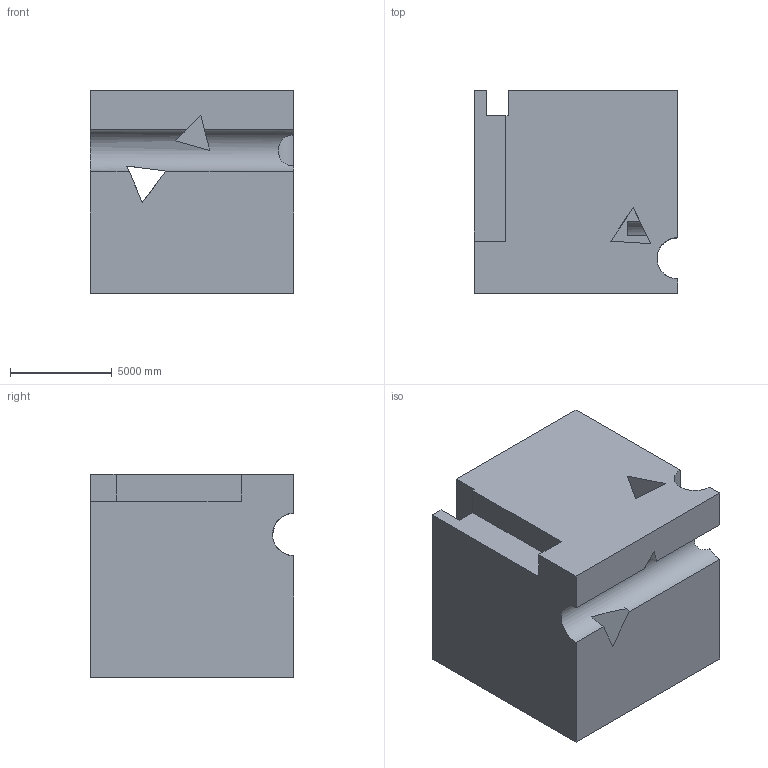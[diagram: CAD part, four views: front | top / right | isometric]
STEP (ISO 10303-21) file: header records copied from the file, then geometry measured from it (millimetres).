
FILE_DESCRIPTION (( 'STEP AP203' ), '1' );
FILE_NAME ('1961.STEP', '2022-08-25T16:52:57', ( 'user' ), ( '' ), 'SwSTEP 2.0', 'SolidWorks 2021', '' );
FILE_SCHEMA (( 'CONFIG_CONTROL_DESIGN' ));
Length unit declared in the file: centimetre
Products named in the file (1): 1961
Bounding box: 10000 x 10000 x 10000 mm (x, y, z)
Volume: 879553926389.6 mm3; surface area: 835526109.8 mm2
Topology: 1 solids, 1 shells, 49 faces, 138 edges, 92 vertices
Faces by surface type: plane 36, cylinder 13
Entity records: 2151 total; most frequent: CARTESIAN_POINT 827, ORIENTED_EDGE 276, DIRECTION 238, EDGE_CURVE 138, VECTOR 96, LINE 96, VERTEX_POINT 92, AXIS2_PLACEMENT_3D 71
